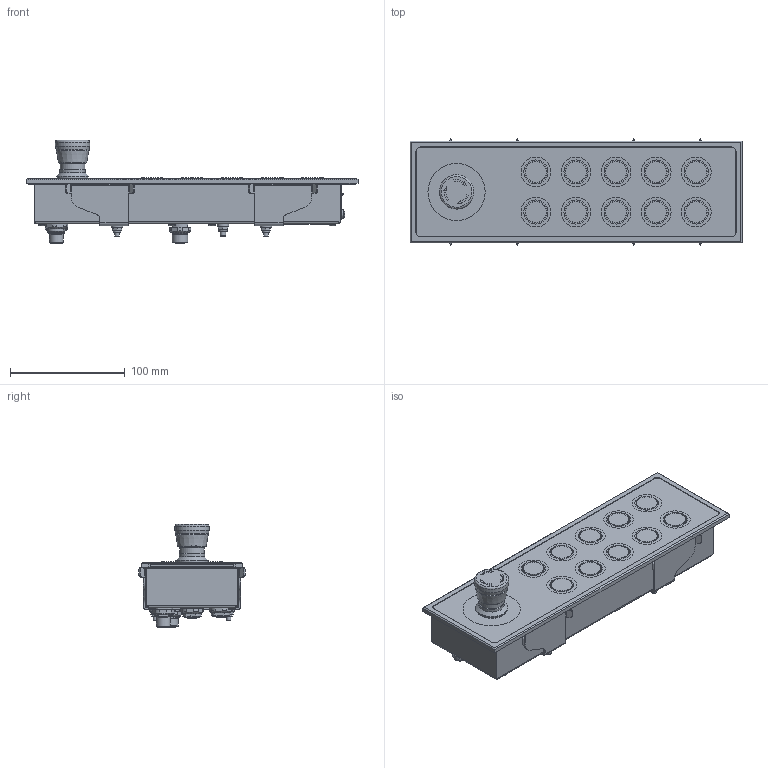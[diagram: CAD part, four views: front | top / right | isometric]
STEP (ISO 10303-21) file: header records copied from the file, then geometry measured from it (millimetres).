
FILE_DESCRIPTION(/* description */ ('-'),/* implementation_level */ '2;1');
FILE_NAME(/* name */ '0000019465.stp',/* time_stamp */ '2024-08-29T14:49:44+02:00',/* author */ ('-'),/* organization */ ('(c) Beckhoff Automation GmbH & Co. KG, 33415 Verl'),/* preprocessor_version */ 'ST-DEVELOPER v20',/* originating_system */ 'Autodesk Inventor 2024',/* authorisation */ '-');
FILE_SCHEMA (('AUTOMOTIVE_DESIGN { 1 0 10303 214 3 1 1 }'));
Products named in the file (1): C9900-M994
Bounding box: 289.9 x 92.61 x 90.79 mm (x, y, z)
Volume: 913742.7 mm3; surface area: 121850.1 mm2
Topology: 1 solids, 31 shells, 2786 faces, 7175 edges, 4604 vertices
Faces by surface type: plane 1477, cylinder 611, bspline 407, cone 215, torus 75, sphere 1
Full cylindrical faces by diameter (mm): 1 x4, 1.1 x18, 1.2 x4, 1.4 x5, 1.5 x13, 1.7 x4, 2.2 x1, 3.65 x1, 4 x12, 4.7 x1, 5 x3, 5.3 x1, 5.7 x6, 6.5 x4, 8.3 x1, 9.4 x1, 9.85 x1, 10 x2, 10.5 x1, 10.8 x1, 10.92 x1, 11 x2, 12 x1, 12.1 x2, 12.3 x1, 13.4 x1, 18.2 x10, 19 x10, 21.5 x1, 22 x1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
Entity records: 92099 total; most frequent: CARTESIAN_POINT 22960, ORIENTED_EDGE 14332, DIRECTION 12781, EDGE_CURVE 7166, VERTEX_POINT 4604, AXIS2_PLACEMENT_3D 4312, LINE 4157, VECTOR 4157
